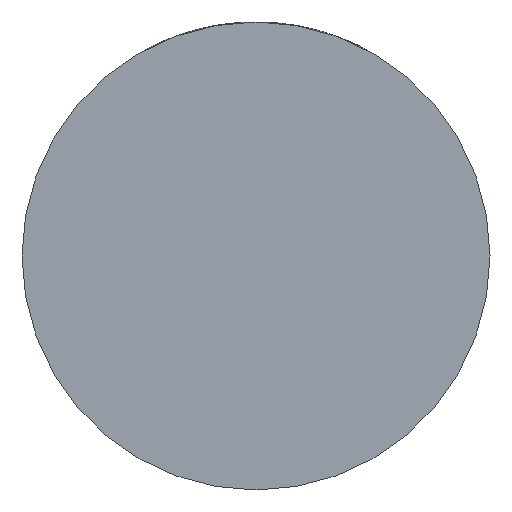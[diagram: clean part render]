
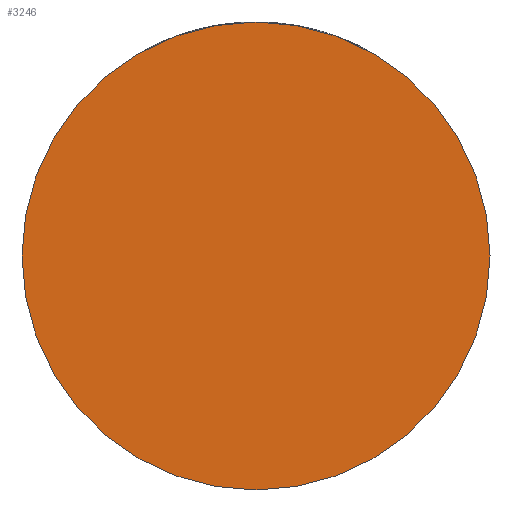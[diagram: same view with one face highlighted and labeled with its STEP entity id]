
A CAD part, front view. The second image highlights one B-rep face of the part: STEP entity #3246.
In plain terms, the highlighted planar face has unit normal (0, -1, 0).
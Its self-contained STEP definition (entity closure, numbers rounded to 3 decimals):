
#93 = VERTEX_POINT ( 'NONE', #2825 ) ;
#601 = DIRECTION ( 'NONE',  ( 1., 0., 0. ) ) ;
#637 = ORIENTED_EDGE ( 'NONE', *, *, #2393, .T. ) ;
#1003 = CARTESIAN_POINT ( 'NONE',  ( 0., -36., 0. ) ) ;
#1010 = CIRCLE ( 'NONE', #4101, 39. ) ;
#1050 = DIRECTION ( 'NONE',  ( 0., -1., 0. ) ) ;
#1315 = DIRECTION ( 'NONE',  ( 0., -1., 0. ) ) ;
#1336 = DIRECTION ( 'NONE',  ( 1., 0., 0. ) ) ;
#1493 = EDGE_LOOP ( 'NONE', ( #637, #1849 ) ) ;
#1849 = ORIENTED_EDGE ( 'NONE', *, *, #2910, .T. ) ;
#2285 = AXIS2_PLACEMENT_3D ( 'NONE', #1003, #3682, #601 ) ;
#2393 = EDGE_CURVE ( 'NONE', #2550, #93, #2705, .T. ) ;
#2462 = CARTESIAN_POINT ( 'NONE',  ( -39., -36., 0. ) ) ;
#2550 = VERTEX_POINT ( 'NONE', #2462 ) ;
#2705 = CIRCLE ( 'NONE', #2285, 39. ) ;
#2825 = CARTESIAN_POINT ( 'NONE',  ( 39., -36., 0. ) ) ;
#2910 = EDGE_CURVE ( 'NONE', #93, #2550, #1010, .T. ) ;
#3080 = AXIS2_PLACEMENT_3D ( 'NONE', #3110, #1050, #3773 ) ;
#3083 = PLANE ( 'NONE',  #3080 ) ;
#3110 = CARTESIAN_POINT ( 'NONE',  ( 0., -36., 0. ) ) ;
#3246 = ADVANCED_FACE ( 'NONE', ( #4133 ), #3083, .T. ) ;
#3376 = CARTESIAN_POINT ( 'NONE',  ( 0., -36., 0. ) ) ;
#3682 = DIRECTION ( 'NONE',  ( 0., -1., 0. ) ) ;
#3773 = DIRECTION ( 'NONE',  ( 1., 0., 0. ) ) ;
#4101 = AXIS2_PLACEMENT_3D ( 'NONE', #3376, #1315, #1336 ) ;
#4133 = FACE_OUTER_BOUND ( 'NONE', #1493, .T. ) ;
